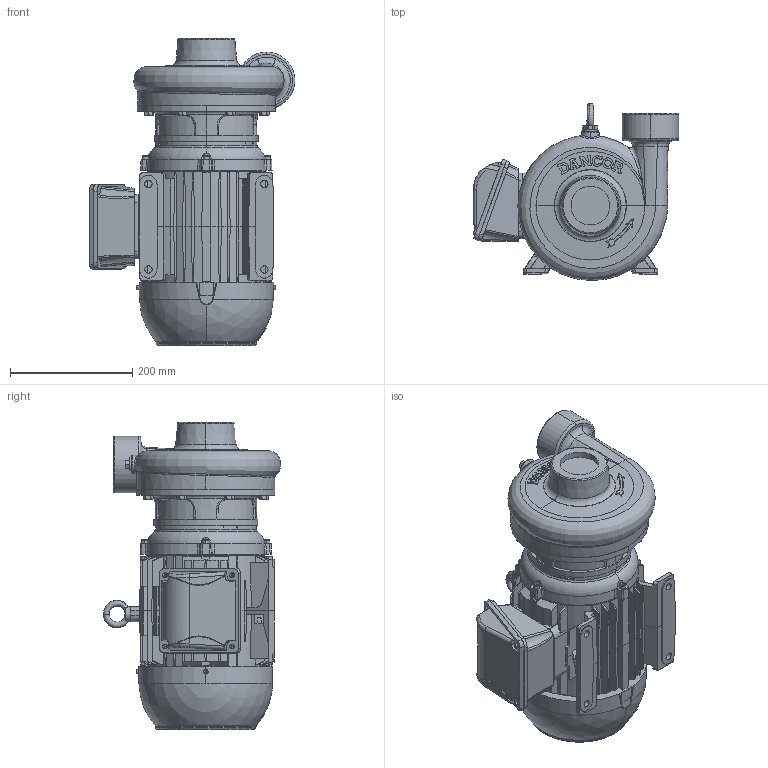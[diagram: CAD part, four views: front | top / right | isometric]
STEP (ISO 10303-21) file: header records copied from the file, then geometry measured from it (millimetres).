
FILE_DESCRIPTION (( 'STEP AP214' ), '1' );
FILE_NAME ('BOMBA 51-30W TJM 2.1-2'''' 7,5CV T 220-380V INC IR3.STEP', '2026-06-08T18:13:14', ( '' ), ( '' ), 'SwSTEP 2.0', 'SolidWorks 2025', '' );
FILE_SCHEMA (( 'AUTOMOTIVE_DESIGN' ));
Length unit declared in the file: millimetre
Products named in the file (7): INTERMEDIARIA 51-30 JM FC 149 FF  (4 A 7,5 CV) _60433122_Interm. 27-50 - 5cv; ARRUELA PLUG DE ESCORVA - 60550167; PLUG DE ESCORVA LATÃO 3-8'''' - 60550166; CARCAÇA 51-30 2'''' X 1.1-2'''' - 60380028_CARCAÇA 51-30 2½" X 2½" -; MOTOR TRI 7,5CV IP55 2P 112M_Predeterminada; HFBOLT 0.375-16x1x1-N_HFBOLT 0.375-16x1x1-N; BOMBA 51-30W TJM 2.1-2'''' 7,5CV T 220-380V INC IR3
Assembly tree (13 placements, depth 2):
  BOMBA 51-30W TJM 2.1-2'''' 7,5CV T 220-380V INC IR3
    MOTOR TRI 7,5CV IP55 2P 112M_Predeterminada
    INTERMEDIARIA 51-30 JM FC 149 FF  (4 A 7,5 CV) _60433122_Interm. 27-50 - 5cv
    ARRUELA PLUG DE ESCORVA - 60550167
    PLUG DE ESCORVA LATÃO 3-8'''' - 60550166
    HFBOLT 0.375-16x1x1-N_HFBOLT 0.375-16x1x1-N  x8
    CARCAÇA 51-30 2'''' X 1.1-2'''' - 60380028_CARCAÇA 51-30 2½" X 2½" -
Bounding box: 337.15 x 290.72 x 503.1 mm (x, y, z)
Volume: 19720467.9 mm3; surface area: 991055.3 mm2
Topology: 30 solids, 31 shells, 1447 faces, 3621 edges, 2267 vertices
Faces by surface type: plane 829, cylinder 261, cone 203, bspline 96, torus 54, sphere 4
Entity records: 49793 total; most frequent: CARTESIAN_POINT 20630, ORIENTED_EDGE 6400, DIRECTION 5443, EDGE_CURVE 3200, VERTEX_POINT 2029, AXIS2_PLACEMENT_3D 1931, VECTOR 1581, LINE 1581
